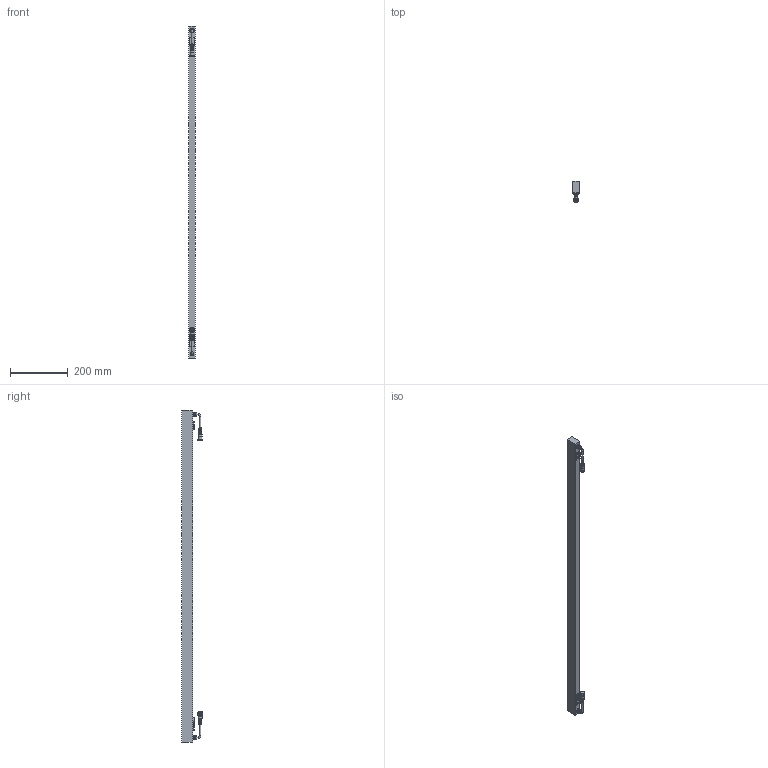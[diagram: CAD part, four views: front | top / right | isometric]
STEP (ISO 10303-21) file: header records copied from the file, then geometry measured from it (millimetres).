
FILE_DESCRIPTION(/* description */ ('Unknown'),/* implementation_level */ '2;1');
FILE_NAME(/* name */ 'PASEO L 45.4',/* time_stamp */ '2023-01-24T04:29:05-05:00',/* author */ ('Unknown'),/* organization */ ('Unknown'),/* preprocessor_version */ 'ST-DEVELOPER v18.1',/* originating_system */ 'Solid Edge',/* authorisation */ 'Unknown');
FILE_SCHEMA (('AUTOMOTIVE_DESIGN {1 0 10303 214 3 1 1}'));
Length unit declared in the file: millimetre
Products named in the file (1): PASEO L 45.4
Bounding box: 24 x 72.29 x 1151.7 mm (x, y, z)
Volume: 1091403.6 mm3; surface area: 153620.9 mm2
Topology: 1 solids, 1 shells, 405 faces, 1071 edges, 686 vertices
Faces by surface type: plane 202, cylinder 122, cone 47, torus 34
Full cylindrical faces by diameter (mm): 4.262 x2, 4.591 x2, 5.7 x4, 7.264 x2, 8.085 x2, 8.465 x1, 8.637 x1, 8.665 x3, 8.821 x3, 9.065 x1, 9.311 x1, 10 x2, 11.534 x1, 12 x4, 12.682 x2, 13.469 x1, 13.602 x1, 14.5 x1, 15 x2, 16 x1, 17 x1
Entity records: 12324 total; most frequent: CARTESIAN_POINT 2556, DIRECTION 2076, ORIENTED_EDGE 1964, EDGE_CURVE 982, AXIS2_PLACEMENT_3D 844, VERTEX_POINT 672, EDGE_LOOP 508, FACE_BOUND 508
